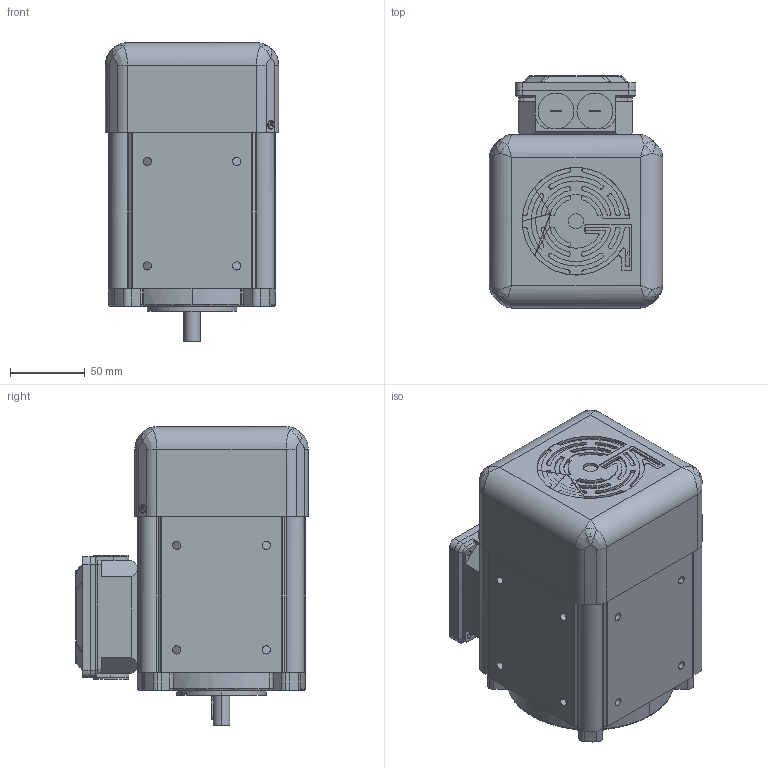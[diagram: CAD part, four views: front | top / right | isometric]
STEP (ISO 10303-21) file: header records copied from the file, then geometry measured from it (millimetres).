
FILE_DESCRIPTION (( 'STEP AP214' ), '1' );
FILE_NAME ('Motor IGLC100-60 IEC63.STEP', '2022-09-27T08:21:12', ( '' ), ( '' ), 'SwSTEP 2.0', 'SolidWorks 2020', '' );
FILE_SCHEMA (( 'AUTOMOTIVE_DESIGN' ));
Length unit declared in the file: millimetre
Products named in the file (1): Motor IGLC100-60 IEC63
Bounding box: 116 x 155.5 x 200 mm (x, y, z)
Volume: 2216918.6 mm3; surface area: 442251.6 mm2
Topology: 32 solids, 35 shells, 1449 faces, 3815 edges, 2390 vertices
Faces by surface type: cylinder 689, plane 528, bspline 181, cone 51
Entity records: 69940 total; most frequent: CARTESIAN_POINT 19326, ORIENTED_EDGE 7442, DIRECTION 7393, EDGE_CURVE 3721, AXIS2_PLACEMENT_3D 2775, VERTEX_POINT 2390, LINE 1843, VECTOR 1843
